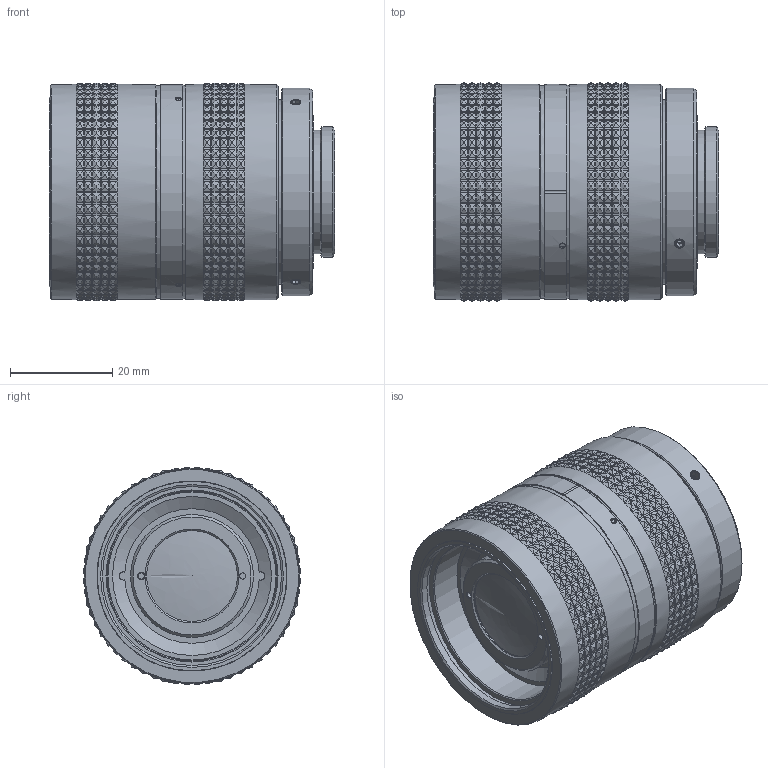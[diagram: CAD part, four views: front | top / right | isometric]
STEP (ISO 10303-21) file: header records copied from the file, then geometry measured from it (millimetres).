
FILE_DESCRIPTION(/* description */ (''),/* implementation_level */ '2;1');
FILE_NAME(/* name */ '0020-004-000-40_AP',/* time_stamp */ '2009-07-29T14:36:45+02:00',/* author */ (''),/* organization */ (''),/* preprocessor_version */ 'ST-DEVELOPER v9',/* originating_system */ 'UGS - NX 4.0',/* authorisation */ '');
FILE_SCHEMA (('AUTOMOTIVE_DESIGN { 1 0 10303 214 1 1 1 1 }'));
Products named in the file (1): pant4B41j2y0
Bounding box: 55.66 x 42.56 x 42.56 mm (x, y, z)
Volume: 64791.8 mm3; surface area: 16592.8 mm2
Topology: 3 solids, 9 shells, 3844 faces, 10128 edges, 6336 vertices
Faces by surface type: plane 1901, cone 1249, cylinder 687, torus 4, revolution 3
Full cylindrical faces by diameter (mm): 1.075 x1, 1.2 x5, 2 x3, 2.013 x6, 12 x1, 14 x2, 17.75 x1, 20.959 x1, 21.6 x2, 22.2 x1, 22.3 x1, 22.6 x1, 24 x1, 24.2 x1, 25.4 x1, 30 x1, 31.8 x1, 32.8 x1, 33.2 x3, 34.7 x1, 34.959 x1, 35.7 x1, 36 x2, 37 x2, 37.2 x2, 40.5 x1, 41.6 x2, 42 x12
Entity records: 148932 total; most frequent: CARTESIAN_POINT 35924, ORIENTED_EDGE 19952, DIRECTION 15393, EDGE_CURVE 9976, AXIS2_PLACEMENT_3D 6419, VERTEX_POINT 6296, B_SPLINE_CURVE_WITH_KNOTS 4850, EDGE_LOOP 3994
